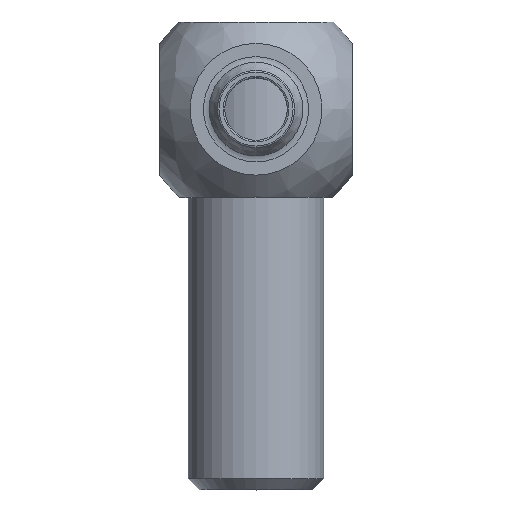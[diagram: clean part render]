
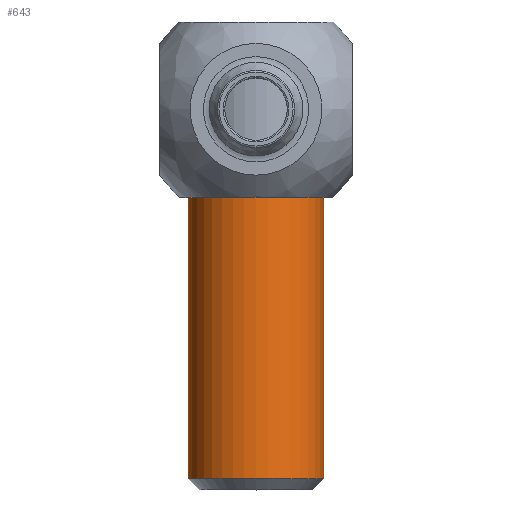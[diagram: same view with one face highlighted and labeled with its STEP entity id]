
A CAD part, top view. The second image highlights one B-rep face of the part: STEP entity #643.
In plain terms, the highlighted cylindrical face has radius 11.048 mm (diameter 22.095 mm), a full revolution.
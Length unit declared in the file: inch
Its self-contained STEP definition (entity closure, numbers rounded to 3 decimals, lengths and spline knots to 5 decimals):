
#67=CYLINDRICAL_SURFACE('',#699,0.43495);
#79=FACE_OUTER_BOUND('',#116,.T.);
#116=EDGE_LOOP('',(#453,#454,#455,#456,#457));
#165=LINE('',#1009,#199);
#199=VECTOR('',#798,0.4375);
#233=CIRCLE('',#697,0.43495);
#234=CIRCLE('',#698,0.43495);
#235=CIRCLE('',#700,0.43495);
#284=VERTEX_POINT('',#1002);
#285=VERTEX_POINT('',#1004);
#286=VERTEX_POINT('',#1008);
#355=EDGE_CURVE('',#284,#285,#233,.F.);
#356=EDGE_CURVE('',#285,#284,#234,.F.);
#357=EDGE_CURVE('',#285,#286,#165,.T.);
#358=EDGE_CURVE('',#286,#286,#235,.T.);
#453=ORIENTED_EDGE('',*,*,#356,.F.);
#454=ORIENTED_EDGE('',*,*,#357,.T.);
#455=ORIENTED_EDGE('',*,*,#358,.T.);
#456=ORIENTED_EDGE('',*,*,#357,.F.);
#457=ORIENTED_EDGE('',*,*,#355,.F.);
#643=ADVANCED_FACE('',(#79),#67,.T.);
#697=AXIS2_PLACEMENT_3D('',#1005,#792,#793);
#698=AXIS2_PLACEMENT_3D('',#1006,#794,#795);
#699=AXIS2_PLACEMENT_3D('',#1007,#796,#797);
#700=AXIS2_PLACEMENT_3D('',#1010,#799,#800);
#792=DIRECTION('center_axis',(0.,1.,0.));
#793=DIRECTION('ref_axis',(0.,0.,-1.));
#794=DIRECTION('center_axis',(0.,1.,0.));
#795=DIRECTION('ref_axis',(0.,0.,-1.));
#796=DIRECTION('center_axis',(0.,-1.,0.));
#797=DIRECTION('ref_axis',(0.,0.,-1.));
#798=DIRECTION('',(0.,1.,0.));
#799=DIRECTION('center_axis',(0.,-1.,0.));
#800=DIRECTION('ref_axis',(0.,0.,-1.));
#1002=CARTESIAN_POINT('',(0.,-1.80255,-0.43495));
#1004=CARTESIAN_POINT('',(0.,-1.80255,0.43495));
#1005=CARTESIAN_POINT('Origin',(0.,-1.80255,0.));
#1006=CARTESIAN_POINT('Origin',(0.,-1.80255,0.));
#1007=CARTESIAN_POINT('Origin',(0.,-0.9375,0.));
#1008=CARTESIAN_POINT('',(0.,0.,0.43495));
#1009=CARTESIAN_POINT('',(0.,-0.9375,0.43495));
#1010=CARTESIAN_POINT('Origin',(0.,0.,0.));
